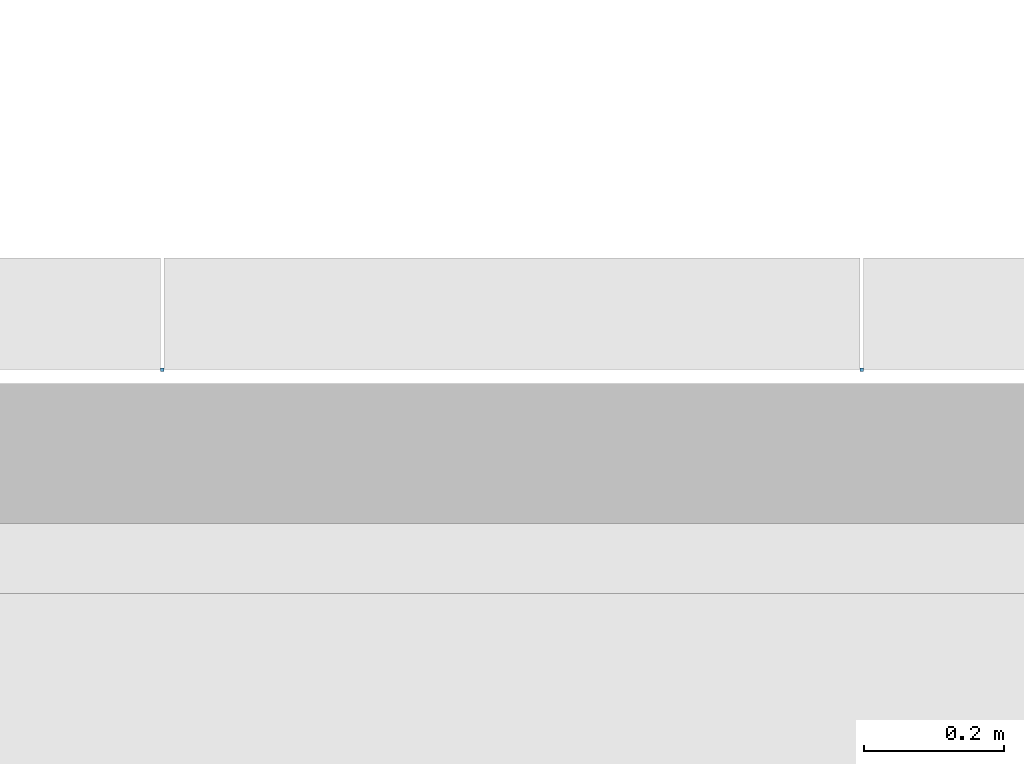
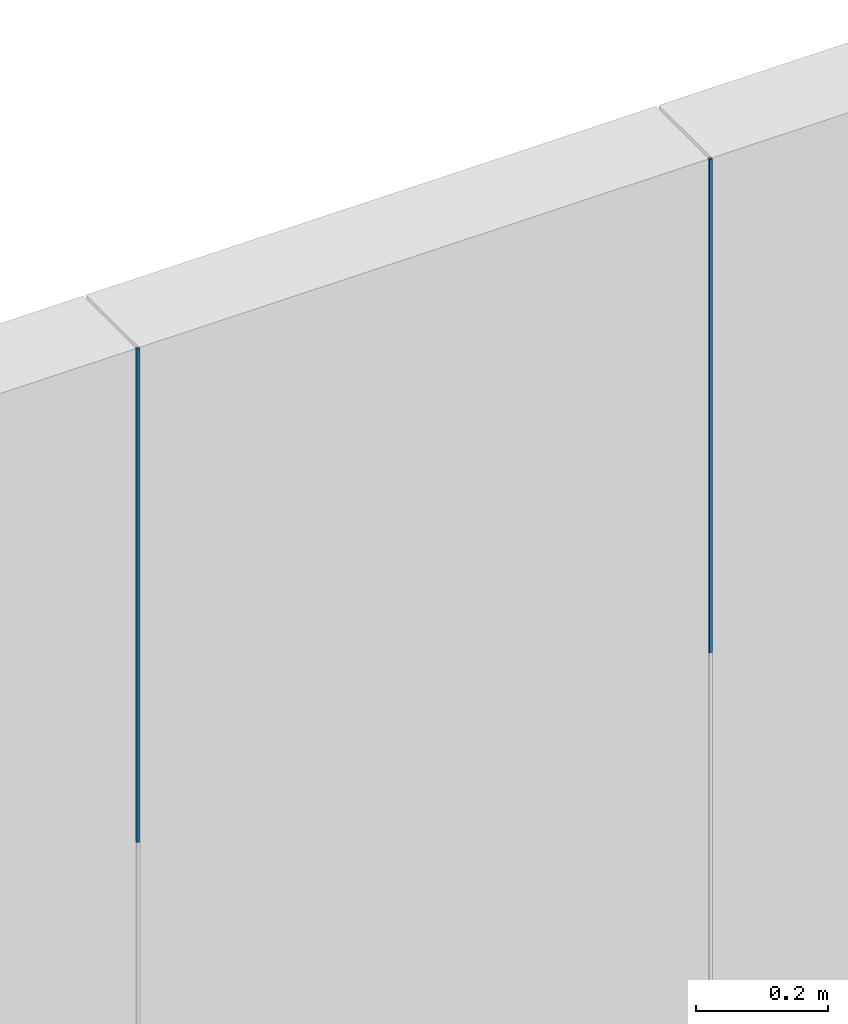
# One storey, part 200 of 302: 2 members, 1 element without a shape of its own.
"""IFC2X3 building model written with IfcOpenShell, lengths in metres."""

from ifc_helpers import new_model, entity, si_unit, converted_unit, derived_unit, direction, frame, frame_2d, origin, place, context, subcontext, project, spatial, rectangle, extrude, source, transform, mapped, material, type_object, type_shapes, element, aggregate, save


model = new_model("IFC2X3")

# Units and contexts
model_context = context("Model", 3, precision=1e-05, world=origin(), true_north=direction((6.12303176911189e-17, 1.0)))
body_context = subcontext(model_context, "Body", "Model", "MODEL_VIEW")
ifc_project = project(units=[si_unit("LENGTHUNIT", "METRE"), si_unit("AREAUNIT", "SQUARE_METRE"), si_unit("VOLUMEUNIT", "CUBIC_METRE"), converted_unit("PLANEANGLEUNIT", "DEGREE", entity("IfcRatioMeasure", 0.0174532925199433), si_unit("PLANEANGLEUNIT", "RADIAN"), dimensions=[0, 0, 0, 0, 0, 0, 0]), si_unit("MASSUNIT", "GRAM", prefix="KILO"), derived_unit("MASSDENSITYUNIT", [(si_unit("MASSUNIT", "GRAM", prefix="KILO"), 1), (si_unit("LENGTHUNIT", "METRE"), -3)]), derived_unit("MOMENTOFINERTIAUNIT", [(si_unit("LENGTHUNIT", "METRE"), 4)]), si_unit("TIMEUNIT", "SECOND"), si_unit("FREQUENCYUNIT", "HERTZ"), si_unit("THERMODYNAMICTEMPERATUREUNIT", "DEGREE_CELSIUS"), derived_unit("THERMALTRANSMITTANCEUNIT", [(si_unit("MASSUNIT", "GRAM", prefix="KILO"), 1), (si_unit("THERMODYNAMICTEMPERATUREUNIT", "KELVIN"), -1), (si_unit("TIMEUNIT", "SECOND"), -3)]), derived_unit("VOLUMETRICFLOWRATEUNIT", [(si_unit("LENGTHUNIT", "METRE"), 3), (si_unit("TIMEUNIT", "SECOND"), -1)]), si_unit("ELECTRICCURRENTUNIT", "AMPERE"), si_unit("ELECTRICVOLTAGEUNIT", "VOLT"), si_unit("POWERUNIT", "WATT"), si_unit("FORCEUNIT", "NEWTON", prefix="KILO"), si_unit("ILLUMINANCEUNIT", "LUX"), si_unit("LUMINOUSFLUXUNIT", "LUMEN"), si_unit("LUMINOUSINTENSITYUNIT", "CANDELA"), derived_unit("USERDEFINED", [(si_unit("MASSUNIT", "GRAM", prefix="KILO"), -1), (si_unit("LENGTHUNIT", "METRE"), -2), (si_unit("TIMEUNIT", "SECOND"), 3), (si_unit("LUMINOUSFLUXUNIT", "LUMEN"), 1)]), derived_unit("LINEARVELOCITYUNIT", [(si_unit("LENGTHUNIT", "METRE"), 1), (si_unit("TIMEUNIT", "SECOND"), -1)]), si_unit("PRESSUREUNIT", "PASCAL"), derived_unit("USERDEFINED", [(si_unit("LENGTHUNIT", "METRE"), -2), (si_unit("MASSUNIT", "GRAM", prefix="KILO"), 1), (si_unit("TIMEUNIT", "SECOND"), -2)]), derived_unit("LINEARFORCEUNIT", [(si_unit("MASSUNIT", "GRAM", prefix="KILO"), 1), (si_unit("LENGTHUNIT", "METRE"), 1), (si_unit("TIMEUNIT", "SECOND"), -2), (si_unit("LENGTHUNIT", "METRE"), -1)]), derived_unit("PLANARFORCEUNIT", [(si_unit("MASSUNIT", "GRAM", prefix="KILO"), 1), (si_unit("LENGTHUNIT", "METRE"), 1), (si_unit("TIMEUNIT", "SECOND"), -2), (si_unit("LENGTHUNIT", "METRE"), -2)])], contexts=[model_context])

# Site, building, storey
site_placement = place(None, origin())
site = spatial("IfcSite", under=ifc_project, at=site_placement, Name="Default", CompositionType="ELEMENT")
building_placement = place(site_placement, origin())
building = spatial("IfcBuilding", under=site, at=building_placement, CompositionType="ELEMENT")
storey_placement = place(building_placement, frame((0.0, 0.0, -1.3)))
storey = spatial("IfcBuildingStorey", under=building, at=storey_placement, Name="00_EG", CompositionType="ELEMENT", Elevation=-1.3)

# Curtain wall, members
curtain_wall_type = type_object("IfcCurtainWallType", Name="Fassade:Curtain Wall 1", PredefinedType="NOTDEFINED")
curtain_wall_placement = place(storey_placement, frame((0.0, 0.0, 1.3)))
curtain_wall = element("IfcCurtainWall", 1, at=curtain_wall_placement, inside=storey, type_object=curtain_wall_type, Name="Fassade:Curtain Wall 1", ObjectType="Fassade:Curtain Wall 1")
ifc_material = material(Name="Aluminium")
member_type = type_object("IfcMemberType", Name="Rectangular Mullion:Paneele Spalt", PredefinedType="MULLION", material=ifc_material)
shared_shape = source(origin(), body_context, "Body", "SweptSolid", [
    extrude(rectangle(XDim=0.005, YDim=0.005, at=frame_2d((0.0, -6.50521303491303e-19), x_axis=(1.0, 0.0))), frame((0.0, 0.0, -0.911252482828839), z_axis=(0.0, 0.0, 1.0), x_axis=(0.0, -1.0, 0.0)), (0.0, 0.0, 1.0), 0.911252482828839),
])
type_shapes(member_type, [shared_shape])
member_1_placement = place(storey_placement, frame((-216.610111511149, 45.578088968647, 10.2096475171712), z_axis=(0.0, 0.0, -1.0), x_axis=(-1.0, 0.0, 0.0)))
member_1 = element("IfcMember", 2, at=member_1_placement, type_object=member_type, material=ifc_material, Name="Rectangular Mullion:Paneele Spalt", ObjectType="Rectangular Mullion:Paneele Spalt", context=body_context, shape_type="MappedRepresentation", body=[
    mapped(shared_shape, transform((0.0, 0.0, 0.0), scale=1.0)),
])
member_2_placement = place(storey_placement, frame((-217.610111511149, 45.578088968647, 10.2096475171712), z_axis=(0.0, 0.0, -1.0), x_axis=(-1.0, 0.0, 0.0)))
member_2 = element("IfcMember", 3, at=member_2_placement, type_object=member_type, material=ifc_material, Name="Rectangular Mullion:Paneele Spalt", ObjectType="Rectangular Mullion:Paneele Spalt", context=body_context, shape_type="MappedRepresentation", body=[
    mapped(shared_shape, transform((0.0, 0.0, 0.0), scale=1.0)),
])
aggregate(curtain_wall, [member_1, member_2])

save(model, "model.ifc")
